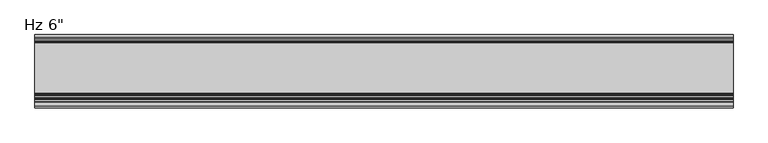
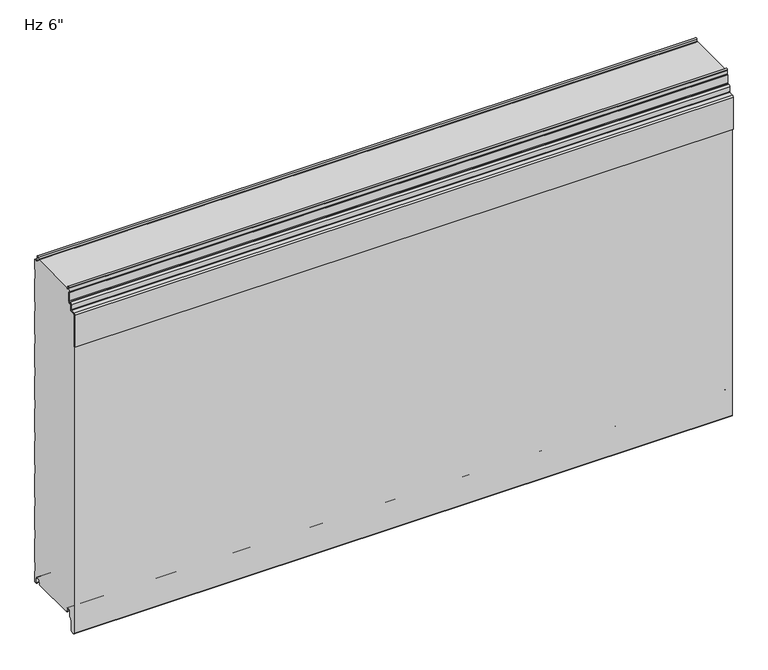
"""IFC4 building model written with IfcOpenShell, lengths in millimetres: plate geometry."""

from ifc_helpers import new_model, si_unit, frame, origin, place, context, project, spatial, polyline, circle_curve, source, transform, mapped, element, save
from ifc_brep_helpers import plane_surface, cylinder_surface, revolved_surface, advanced_brep


def plate_fe53e348(model_context):
    return source(origin(), model_context, "Body", "AdvancedBrep", [
        advanced_brep(
        [(730.0, -131.3008679, 735.9534183), (730.0, -131.3008679, 754.6986183), (730.0, -132.8248679, 754.6986183), (730.0, -132.8248679, 735.9534183), (730.0, -134.3488679, 734.4294183), (730.0, -137.4476679, 734.4294183), (730.0, -140.9020679, 730.9750183), (730.0, -140.9020679, 719.762461), (730.0, -141.5976552, 719.0033606), (730.0, -151.1416507, 717.808533), (730.0, -153.924, 714.7721316), (730.0, -153.9360323, 639.2048183), (730.0, -152.4, 639.2048183), (730.0, -152.4, 714.7721316), (730.0, -151.0088254, 716.2903323), (730.0, -141.4648299, 717.4851599), (730.0, -139.3780679, 719.762461), (730.0, -139.3780679, 730.9750183), (730.0, -137.4476679, 732.9054183), (730.0, -134.3488679, 732.9054183), (-730.0, -131.3008679, 735.9534183), (-730.0, -134.3488679, 732.9054183), (-730.0, -137.4476679, 732.9054183), (-730.0, -139.3780679, 730.9750183), (-730.0, -139.3780679, 719.762461), (-730.0, -141.4648299, 717.4851599), (-730.0, -151.0088254, 716.2903323), (-730.0, -152.4, 714.7721316), (-730.0, -152.4, 639.2048183), (-730.0, -153.9360323, 639.2048183), (-730.0, -153.9360323, 714.7721316), (-730.0, -151.1416507, 717.808533), (-730.0, -141.5976552, 719.0033606), (-730.0, -140.9020679, 719.762461), (-730.0, -140.9020679, 730.9750183), (-730.0, -137.4476679, 734.4294183), (-730.0, -134.3488679, 734.4294183), (-730.0, -132.8248679, 735.9534183), (-730.0, -132.8248679, 754.6986183), (-730.0, -131.3008679, 754.6986183)],
        [
            (0, 1),
            (1, 2),
            (2, 3),
            (3, 4, circle_curve(frame((730.0, -134.3488679, 735.9534183), z_axis=(-1.0, 0.0, 0.0), x_axis=(0.0, 1.0, 0.0)), 1.524)),
            (4, 5),
            (5, 6, circle_curve(frame((730.0, -137.4476679, 730.9750183), z_axis=(1.0, 0.0, 0.0), x_axis=(0.0, 1.0, 0.0)), 3.4544)),
            (6, 7),
            (7, 8, circle_curve(frame((730.0, -141.6640679, 719.762461), z_axis=(-1.0, 0.0, 0.0), x_axis=(0.0, 1.0, 0.0)), 0.762)),
            (8, 9),
            (9, 10, circle_curve(frame((730.0, -150.876, 714.7721316), z_axis=(1.0, 0.0, 0.0), x_axis=(0.0, 1.0, 0.0)), 3.048)),
            (10, 11),
            (11, 12),
            (12, 13),
            (13, 14, circle_curve(frame((730.0, -150.876, 714.7721316), z_axis=(-1.0, 0.0, 0.0), x_axis=(0.0, 1.0, 0.0)), 1.524)),
            (14, 15),
            (15, 16, circle_curve(frame((730.0, -141.6640679, 719.762461), z_axis=(1.0, 0.0, 0.0), x_axis=(0.0, 1.0, 0.0)), 2.286)),
            (16, 17),
            (17, 18, circle_curve(frame((730.0, -137.4476679, 730.9750183), z_axis=(-1.0, 0.0, 0.0), x_axis=(0.0, 1.0, 0.0)), 1.9304)),
            (18, 19),
            (19, 0, circle_curve(frame((730.0, -134.3488679, 735.9534183), z_axis=(1.0, 0.0, 0.0), x_axis=(0.0, 1.0, 0.0)), 3.048)),
            (20, 21, circle_curve(frame((-730.0, -134.3488679, 735.9534183), z_axis=(-1.0, 0.0, 0.0), x_axis=(0.0, 1.0, 0.0)), 3.048)),
            (21, 22),
            (22, 23, circle_curve(frame((-730.0, -137.4476679, 730.9750183), z_axis=(1.0, 0.0, 0.0), x_axis=(0.0, 1.0, 0.0)), 1.9304)),
            (23, 24),
            (24, 25, circle_curve(frame((-730.0, -141.6640679, 719.762461), z_axis=(-1.0, 0.0, 0.0), x_axis=(0.0, 1.0, 0.0)), 2.286)),
            (25, 26),
            (26, 27, circle_curve(frame((-730.0, -150.876, 714.7721316), z_axis=(1.0, 0.0, 0.0), x_axis=(0.0, 1.0, 0.0)), 1.524)),
            (27, 28),
            (28, 29),
            (29, 30),
            (30, 31, circle_curve(frame((-730.0, -150.876, 714.7721316), z_axis=(-1.0, 0.0, 0.0), x_axis=(0.0, 1.0, 0.0)), 3.048)),
            (31, 32),
            (32, 33, circle_curve(frame((-730.0, -141.6640679, 719.762461), z_axis=(1.0, 0.0, 0.0), x_axis=(0.0, 1.0, 0.0)), 0.762)),
            (33, 34),
            (34, 35, circle_curve(frame((-730.0, -137.4476679, 730.9750183), z_axis=(-1.0, 0.0, 0.0), x_axis=(0.0, 1.0, 0.0)), 3.4544)),
            (35, 36),
            (36, 37, circle_curve(frame((-730.0, -134.3488679, 735.9534183), z_axis=(1.0, 0.0, 0.0), x_axis=(0.0, 1.0, 0.0)), 1.524)),
            (37, 38),
            (38, 39),
            (39, 20),
            (2, 38),
            (37, 3),
            (15, 25),
            (24, 16),
            (7, 33),
            (32, 8),
            (5, 35),
            (34, 6),
            (1, 39),
            (36, 4),
            (9, 31),
            (30, 10),
            (13, 27),
            (26, 14),
            (0, 20),
            (12, 28),
            (29, 11),
            (23, 17),
            (18, 22),
            (21, 19),
        ],
        [
            plane_surface(frame((730.0, -152.4, 754.6986183), z_axis=(1.0, 0.0, 0.0), x_axis=(0.0, 0.0, -1.0))),
            plane_surface(frame((-730.0, -152.4, 754.6986183), z_axis=(-1.0, 0.0, 0.0), x_axis=(0.0, 0.0, -1.0))),
            plane_surface(frame((730.0, -132.8248679, 735.9534183), z_axis=(0.0, -1.0, 0.0), x_axis=(-1.0, 0.0, 0.0))),
            cylinder_surface(frame((730.0, -141.6640679, 719.762461), z_axis=(1.0, 0.0, 0.0), x_axis=(0.0, 1.0, 0.0)), 2.286),
            revolved_surface(polyline([(-730.0, -140.9020679, 719.762461), (730.0, -140.9020679, 719.762461)]), (730.0, -141.6640679, 719.762461), (-1.0, 0.0, 0.0)),
            cylinder_surface(frame((730.0, -137.4476679, 730.9750183), z_axis=(1.0, 0.0, 0.0), x_axis=(0.0, 1.0, 0.0)), 3.4544),
            plane_surface(frame((730.0, -132.8248679, 754.6986183), z_axis=(0.0, 0.0, 1.0), x_axis=(-1.0, 0.0, 0.0))),
            revolved_surface(polyline([(-730.0, -132.8248679, 735.9534183), (730.0, -132.8248679, 735.9534183)]), (730.0, -134.3488679, 735.9534183), (-1.0, 0.0, 0.0)),
            cylinder_surface(frame((730.0, -150.876, 714.7721316), z_axis=(1.0, 0.0, 0.0), x_axis=(0.0, 1.0, 0.0)), 3.048),
            revolved_surface(polyline([(-730.0, -149.352, 714.7721316), (730.0, -149.352, 714.7721316)]), (730.0, -150.876, 714.7721316), (-1.0, 0.0, 0.0)),
            plane_surface(frame((730.0, -131.3008679, 754.6986183), z_axis=(0.0, 1.0, 0.0), x_axis=(-1.0, 0.0, 0.0))),
            plane_surface(frame((730.0, -141.4648299, 717.4851599), z_axis=(0.0, 0.12422187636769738, -0.9922544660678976), x_axis=(-1.0, 0.0, 0.0))),
            plane_surface(frame((730.0, -152.4, 714.7721316), z_axis=(0.0, 1.0, 0.0), x_axis=(-1.0, 0.0, 0.0))),
            plane_surface(frame((730.0, -151.1416507, 717.808533), z_axis=(0.0, -0.12422187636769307, 0.9922544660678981), x_axis=(-1.0, 0.0, 0.0))),
            plane_surface(frame((730.0, -137.4476679, 734.4294183), z_axis=(0.0, 0.0, 1.0), x_axis=(-1.0, 0.0, 0.0))),
            plane_surface(frame((730.0, -153.9360323, 639.2048183), z_axis=(0.0, -1.0, 0.0), x_axis=(-1.0, 0.0, 0.0))),
            plane_surface(frame((730.0, -152.4, 639.2048183), z_axis=(0.0, 0.0, -1.0), x_axis=(-1.0, 0.0, 0.0))),
            plane_surface(frame((730.0, -139.3780679, 730.9750183), z_axis=(0.0, 1.0, 0.0), x_axis=(-1.0, 0.0, 0.0))),
            plane_surface(frame((730.0, -134.3488679, 732.9054183), z_axis=(0.0, 0.0, -1.0), x_axis=(-1.0, 0.0, 0.0))),
            plane_surface(frame((730.0, -140.9020679, 719.762461), z_axis=(0.0, -1.0, 0.0), x_axis=(-1.0, 0.0, 0.0))),
            revolved_surface(polyline([(-730.0, -135.5172679, 730.9750183), (730.0, -135.5172679, 730.9750183)]), (730.0, -137.4476679, 730.9750183), (-1.0, 0.0, 0.0)),
            cylinder_surface(frame((730.0, -134.3488679, 735.9534183), z_axis=(1.0, 0.0, 0.0), x_axis=(0.0, 1.0, 0.0)), 3.048),
        ],
        [
            (0, [[1, 2, 3, 4, 5, 6, 7, 8, 9, 10, 11, 12, 13, 14, 15, 16, 17, 18, 19, 20]]),
            (1, [[21, 22, 23, 24, 25, 26, 27, 28, 29, 30, 31, 32, 33, 34, 35, 36, 37, 38, 39, 40]]),
            (2, [[41, -38, 42, -3]]),
            (3, [[43, -25, 44, -16]]),
            (4, [[45, -33, 46, -8]]),
            (5, [[47, -35, 48, -6]]),
            (6, [[49, -39, -41, -2]]),
            (7, [[-42, -37, 50, -4]]),
            (8, [[51, -31, 52, -10]]),
            (9, [[53, -27, 54, -14]]),
            (10, [[55, -40, -49, -1]]),
            (11, [[-54, -26, -43, -15]]),
            (12, [[56, -28, -53, -13]]),
            (13, [[-46, -32, -51, -9]]),
            (14, [[-50, -36, -47, -5]]),
            (15, [[-52, -30, 57, -11]]),
            (16, [[-57, -29, -56, -12]]),
            (17, [[-44, -24, 58, -17]]),
            (18, [[59, -22, 60, -19]]),
            (19, [[-48, -34, -45, -7]]),
            (20, [[-58, -23, -59, -18]]),
            (21, [[-60, -21, -55, -20]]),
        ],
    ),
        advanced_brep(
        [(-730.0, -124.070875, 1.0316999), (-730.0, -122.9014003, 2.2328239), (-730.0, -122.9014003, 5.9912173), (-730.0, -124.2998791, 5.9912173), (-730.0, -124.2998791, 8.6903283), (-730.0, -127.6498744, 12.0403236), (-730.0, -132.0498656, 12.0403236), (-730.0, -135.3998609, 8.6903283), (-730.0, -135.3998609, -3.1205608), (-730.0, -135.8977778, -4.3226385), (-730.0, -141.3998489, -9.8247096), (-730.0, -141.3998489, -31.9198392), (-730.0, -143.6184509, -34.5765709), (-730.0, -148.6002718, -35.0125699), (-730.0, -151.3945967, -32.4521176), (-730.0, -151.4, 713.515622), (-730.0, -149.6149259, 715.4669057), (-730.0, -141.1539491, 716.221161), (-730.0, -138.3906462, 719.3653654), (-730.0, -138.3906462, 729.4583308), (-730.0, -137.4392375, 730.4097394), (-730.0, -134.2955822, 730.4097394), (-730.0, -130.2961292, 734.4091924), (-730.0, -130.2961292, 755.5895515), (-730.0, -132.276977, 756.7334028), (-730.0, -131.9217167, 765.706811), (-730.0, -127.7211391, 765.7037148), (-730.0, -127.4767242, 761.6977997), (-730.0, -125.6819116, 759.9686884), (-730.0, -122.897365, 759.9686884), (-730.0, -122.897365, 760.9686884), (-730.0, -124.484865, 760.9686884), (-730.0, -123.4535534, 762.0), (-730.0, -18.6184525, 762.0), (-730.0, -17.5871409, 760.9686884), (-730.0, -19.0015288, 760.9686884), (-730.0, -19.0015288, 759.9686884), (-730.0, -16.6743462, 759.9686884), (-730.0, -14.9256429, 761.6513685), (-730.0, -14.7059822, 765.7921924), (-730.0, -10.4046442, 765.7931719), (-730.0, -9.9974365, 757.3016499), (-730.0, -6.0026007, 753.4787013), (-730.0, -1.0, 753.4787013), (-730.0, -1.0, 728.9790963), (-730.0, -2.2002307, 727.5934634), (-730.0, -2.2002307, 708.2182971), (-730.0, -1.0, 706.8326641), (-730.0, -1.0, 652.7792487), (-730.0, -2.2002307, 651.3936158), (-730.0, -2.2002307, 632.0184495), (-730.0, -1.0, 630.6328165), (-730.0, -1.0, 576.5794011), (-730.0, -2.2002307, 575.1937682), (-730.0, -2.2002307, 555.8186019), (-730.0, -1.0, 554.4329689), (-730.0, -1.0, 500.3795535), (-730.0, -2.2002307, 498.9939206), (-730.0, -2.2002307, 479.6187543), (-730.0, -1.0, 478.2331213), (-730.0, -1.0, 424.1797059), (-730.0, -2.2002307, 422.794073), (-730.0, -2.2002307, 403.4189067), (-730.0, -1.0, 402.0332737), (-730.0, -1.0, 347.9798583), (-730.0, -2.2002307, 346.5942254), (-730.0, -2.2002307, 327.2190591), (-730.0, -1.0, 325.8334261), (-730.0, -1.0, 271.7800107), (-730.0, -2.2002307, 270.3943778), (-730.0, -2.2002307, 251.0192115), (-730.0, -1.0, 249.6335785), (-730.0, -1.0, 195.5801631), (-730.0, -2.2002307, 194.1945302), (-730.0, -2.2002307, 174.8193639), (-730.0, -1.0, 173.4337309), (-730.0, -1.0, 119.3803155), (-730.0, -2.2002307, 117.9946826), (-730.0, -2.2002307, 98.6195163), (-730.0, -1.0, 97.2338833), (-730.0, -1.0, 43.1804679), (-730.0, -2.2002307, 41.794835), (-730.0, -2.2002307, 22.4196687), (-730.0, -0.9999916, 21.034026), (-730.0, -0.9999916, -3.4662506), (-730.0, -5.2315389, -3.4662506), (-730.0, -7.0015331, -1.6962564), (-730.0, -7.0015331, 8.7237222), (-730.0, -10.301529, 12.023718), (-730.0, -14.7015202, 12.023718), (-730.0, -18.0015159, 8.7237223), (-730.0, -18.0015159, 6.0315125), (-730.0, -19.0015105, 6.0315125), (-730.0, -19.0015105, 2.0313089), (-730.0, -18.0015192, 1.0313117), (-730.0, -19.0328308, 0.0), (-730.0, -123.0391751, 0.0), (730.0, -124.070875, 1.0316999), (730.0, -123.0391751, 0.0), (730.0, -19.0328308, 0.0), (730.0, -18.0015192, 1.0313117), (730.0, -19.0015105, 2.0313089), (730.0, -19.0015105, 6.0315125), (730.0, -18.0015159, 6.0315125), (730.0, -18.0015159, 8.7237223), (730.0, -14.7015202, 12.023718), (730.0, -10.301529, 12.023718), (730.0, -7.0015331, 8.7237222), (730.0, -7.0015331, -1.6962564), (730.0, -5.2315389, -3.4662506), (730.0, -0.9999916, -3.4662506), (730.0, -0.9999916, 21.034026), (730.0, -2.2002307, 22.4196687), (730.0, -2.2002307, 41.794835), (730.0, -1.0, 43.1804679), (730.0, -1.0, 97.2338833), (730.0, -2.2002307, 98.6195163), (730.0, -2.2002307, 117.9946826), (730.0, -1.0, 119.3803155), (730.0, -1.0, 173.4337309), (730.0, -2.2002307, 174.8193639), (730.0, -2.2002307, 194.1945302), (730.0, -1.0, 195.5801631), (730.0, -1.0, 249.6335785), (730.0, -2.2002307, 251.0192115), (730.0, -2.2002307, 270.3943778), (730.0, -1.0, 271.7800107), (730.0, -1.0, 325.8334261), (730.0, -2.2002307, 327.2190591), (730.0, -2.2002307, 346.5942254), (730.0, -1.0, 347.9798583), (730.0, -1.0, 402.0332737), (730.0, -2.2002307, 403.4189067), (730.0, -2.2002307, 422.794073), (730.0, -1.0, 424.1797059), (730.0, -1.0, 478.2331213), (730.0, -2.2002307, 479.6187543), (730.0, -2.2002307, 498.9939206), (730.0, -1.0, 500.3795535), (730.0, -1.0, 554.4329689), (730.0, -2.2002307, 555.8186019), (730.0, -2.2002307, 575.1937682), (730.0, -1.0, 576.5794011), (730.0, -1.0, 630.6328165), (730.0, -2.2002307, 632.0184495), (730.0, -2.2002307, 651.3936158), (730.0, -1.0, 652.7792487), (730.0, -1.0, 706.8326641), (730.0, -2.2002307, 708.2182971), (730.0, -2.2002307, 727.5934634), (730.0, -1.0, 728.9790963), (730.0, -1.0, 753.4787013), (730.0, -6.0026007, 753.4787013), (730.0, -9.9974365, 757.3016499), (730.0, -10.4046442, 765.7931719), (730.0, -14.7059822, 765.7921924), (730.0, -14.9256429, 761.6513685), (730.0, -16.6743462, 759.9686884), (730.0, -19.0015288, 759.9686884), (730.0, -19.0015288, 760.9686884), (730.0, -17.5871409, 760.9686884), (730.0, -18.6184525, 762.0), (730.0, -123.4535534, 762.0), (730.0, -124.484865, 760.9686884), (730.0, -122.897365, 760.9686884), (730.0, -122.897365, 759.9686884), (730.0, -125.6819116, 759.9686884), (730.0, -127.4767242, 761.6977997), (730.0, -127.7211391, 765.7037148), (730.0, -131.9217167, 765.706811), (730.0, -132.276977, 756.7334028), (730.0, -130.2961292, 755.5895515), (730.0, -130.2961292, 734.4091924), (730.0, -134.2955822, 730.4097394), (730.0, -137.4392375, 730.4097394), (730.0, -138.3906462, 729.4583308), (730.0, -138.3906462, 719.3653654), (730.0, -141.1539491, 716.221161), (730.0, -149.6149259, 715.4669057), (730.0, -151.4, 713.515622), (730.0, -151.4, -32.4521176), (730.0, -148.6002718, -35.0125699), (730.0, -143.6184509, -34.5765709), (730.0, -141.3998489, -31.9198392), (730.0, -141.3998489, -9.8247096), (730.0, -135.8977778, -4.3226385), (730.0, -135.3998609, -3.1205608), (730.0, -135.3998609, 8.6903283), (730.0, -132.0498656, 12.0403236), (730.0, -127.6498744, 12.0403236), (730.0, -124.2998791, 8.6903283), (730.0, -124.2998791, 5.9912173), (730.0, -122.9014003, 5.9912173), (730.0, -122.9014003, 2.2328239)],
        [
            (0, 1, circle_curve(frame((-730.0, -124.1013969, 2.2313092), z_axis=(1.0, 0.0, 0.0), x_axis=(0.0, 0.0, -1.0)), 1.1999976)),
            (1, 2),
            (2, 3),
            (3, 4),
            (4, 5, circle_curve(frame((-730.0, -127.6498744, 8.6903283), z_axis=(1.0, 0.0, 0.0), x_axis=(0.0, 0.0, -1.0)), 3.3499953)),
            (5, 6),
            (6, 7, circle_curve(frame((-730.0, -132.0498656, 8.6903283), z_axis=(1.0, 0.0, 0.0), x_axis=(0.0, 0.0, -1.0)), 3.3499953)),
            (7, 8),
            (8, 9, circle_curve(frame((-730.0, -137.0998555, -3.1205608), z_axis=(-1.0, 0.0, 0.0), x_axis=(0.0, 0.0, -1.0)), 1.6999946)),
            (9, 10),
            (10, 11),
            (11, 12, circle_curve(frame((-730.0, -144.0998415, -31.9198392), z_axis=(-1.0, 0.0, 0.0), x_axis=(0.0, 0.0, -1.0)), 2.6999926)),
            (12, 13),
            (13, 14, circle_curve(frame((-730.0, -148.8243575, -32.4521176), z_axis=(-1.0, 0.0, 0.0), x_axis=(0.0, 0.0, -1.0)), 2.5702393)),
            (14, 15),
            (15, 16, circle_curve(frame((-730.0, -149.4409784, 713.515622), z_axis=(-1.0, 0.0, 0.0), x_axis=(0.0, 0.0, -1.0)), 1.9590216)),
            (16, 17),
            (17, 18, circle_curve(frame((-730.0, -141.4180321, 719.2396267), z_axis=(1.0, 0.0, 0.0), x_axis=(0.0, 0.0, -1.0)), 3.0299959)),
            (18, 19),
            (19, 20, circle_curve(frame((-730.0, -137.4392375, 729.4583308), z_axis=(-1.0, 0.0, 0.0), x_axis=(0.0, 0.0, -1.0)), 0.9514087)),
            (20, 21),
            (21, 22, circle_curve(frame((-730.0, -134.2955822, 734.4091924), z_axis=(1.0, 0.0, 0.0), x_axis=(0.0, 0.0, -1.0)), 3.9994529)),
            (22, 23),
            (23, 24),
            (24, 25),
            (25, 26, circle_curve(frame((-730.0, -129.821488, 765.6236622), z_axis=(-1.0, 0.0, 0.0), x_axis=(0.0, 0.0, -1.0)), 2.1018739)),
            (26, 27),
            (27, 28, circle_curve(frame((-730.0, -125.6383506, 761.8099653), z_axis=(1.0, 0.0, 0.0), x_axis=(0.0, 0.0, -1.0)), 1.8417922)),
            (28, 29),
            (29, 30),
            (30, 31),
            (31, 32),
            (32, 33),
            (33, 34),
            (34, 35),
            (35, 36),
            (36, 37),
            (37, 38, circle_curve(frame((-730.0, -16.6743462, 761.7186869), z_axis=(1.0, 0.0, 0.0), x_axis=(0.0, 0.0, 1.0)), 1.7499985)),
            (38, 39),
            (39, 40, circle_curve(frame((-730.0, -12.5552871, 765.6781032), z_axis=(-1.0, 0.0, 0.0), x_axis=(0.0, 0.0, 1.0)), 2.153719)),
            (40, 41),
            (41, 42, circle_curve(frame((-730.0, -5.9867338, 757.4939817), z_axis=(1.0, 0.0, 0.0), x_axis=(0.0, 0.0, 1.0)), 4.0153117)),
            (42, 43),
            (43, 44),
            (44, 45),
            (45, 46),
            (46, 47),
            (47, 48),
            (48, 49),
            (49, 50),
            (50, 51),
            (51, 52),
            (52, 53),
            (53, 54),
            (54, 55),
            (55, 56),
            (56, 57),
            (57, 58),
            (58, 59),
            (59, 60),
            (60, 61),
            (61, 62),
            (62, 63),
            (63, 64),
            (64, 65),
            (65, 66),
            (66, 67),
            (67, 68),
            (68, 69),
            (69, 70),
            (70, 71),
            (71, 72),
            (72, 73),
            (73, 74),
            (74, 75),
            (75, 76),
            (76, 77),
            (77, 78),
            (78, 79),
            (79, 80),
            (80, 81),
            (81, 82),
            (82, 83),
            (83, 84),
            (84, 85),
            (85, 86, circle_curve(frame((-730.0, -5.2315389, -1.6962564), z_axis=(-1.0, 0.0, 0.0), x_axis=(0.0, 0.0, 1.0)), 1.7699942)),
            (86, 87),
            (87, 88, circle_curve(frame((-730.0, -10.301529, 8.7237222), z_axis=(1.0, 0.0, 0.0), x_axis=(0.0, 0.0, 1.0)), 3.2999959)),
            (88, 89),
            (89, 90, circle_curve(frame((-730.0, -14.7015202, 8.7237223), z_axis=(1.0, 0.0, 0.0), x_axis=(0.0, 0.0, 1.0)), 3.2999957)),
            (90, 91),
            (91, 92),
            (92, 93),
            (93, 94, circle_curve(frame((-730.0, -18.0015133, 2.0313089), z_axis=(1.0, 0.0, 0.0), x_axis=(0.0, 0.0, 1.0)), 0.9999972)),
            (94, 95),
            (95, 96),
            (96, 0),
            (97, 98),
            (98, 99),
            (99, 100),
            (100, 101, circle_curve(frame((730.0, -18.0015133, 2.0313089), z_axis=(-1.0, 0.0, 0.0), x_axis=(0.0, 0.0, 1.0)), 0.9999972)),
            (101, 102),
            (102, 103),
            (103, 104),
            (104, 105, circle_curve(frame((730.0, -14.7015202, 8.7237223), z_axis=(-1.0, 0.0, 0.0), x_axis=(0.0, 0.0, 1.0)), 3.2999957)),
            (105, 106),
            (106, 107, circle_curve(frame((730.0, -10.301529, 8.7237222), z_axis=(-1.0, 0.0, 0.0), x_axis=(0.0, 0.0, 1.0)), 3.2999959)),
            (107, 108),
            (108, 109, circle_curve(frame((730.0, -5.2315389, -1.6962564), z_axis=(1.0, 0.0, 0.0), x_axis=(0.0, 0.0, 1.0)), 1.7699942)),
            (109, 110),
            (110, 111),
            (111, 112),
            (112, 113),
            (113, 114),
            (114, 115),
            (115, 116),
            (116, 117),
            (117, 118),
            (118, 119),
            (119, 120),
            (120, 121),
            (121, 122),
            (122, 123),
            (123, 124),
            (124, 125),
            (125, 126),
            (126, 127),
            (127, 128),
            (128, 129),
            (129, 130),
            (130, 131),
            (131, 132),
            (132, 133),
            (133, 134),
            (134, 135),
            (135, 136),
            (136, 137),
            (137, 138),
            (138, 139),
            (139, 140),
            (140, 141),
            (141, 142),
            (142, 143),
            (143, 144),
            (144, 145),
            (145, 146),
            (146, 147),
            (147, 148),
            (148, 149),
            (149, 150),
            (150, 151),
            (151, 152),
            (152, 153, circle_curve(frame((730.0, -5.9867338, 757.4939817), z_axis=(-1.0, 0.0, 0.0), x_axis=(0.0, 0.0, 1.0)), 4.0153117)),
            (153, 154),
            (154, 155, circle_curve(frame((730.0, -12.5552871, 765.6781032), z_axis=(1.0, 0.0, 0.0), x_axis=(0.0, 0.0, 1.0)), 2.153719)),
            (155, 156),
            (156, 157, circle_curve(frame((730.0, -16.6743462, 761.7186869), z_axis=(-1.0, 0.0, 0.0), x_axis=(0.0, 0.0, 1.0)), 1.7499985)),
            (157, 158),
            (158, 159),
            (159, 160),
            (160, 161),
            (161, 162),
            (162, 163),
            (163, 164),
            (164, 165),
            (165, 166),
            (166, 167, circle_curve(frame((730.0, -125.6383506, 761.8099653), z_axis=(-1.0, 0.0, 0.0), x_axis=(0.0, 0.0, -1.0)), 1.8417922)),
            (167, 168),
            (168, 169, circle_curve(frame((730.0, -129.821488, 765.6236622), z_axis=(1.0, 0.0, 0.0), x_axis=(0.0, 0.0, -1.0)), 2.1018739)),
            (169, 170),
            (170, 171),
            (171, 172),
            (172, 173, circle_curve(frame((730.0, -134.2955822, 734.4091924), z_axis=(-1.0, 0.0, 0.0), x_axis=(0.0, 0.0, -1.0)), 3.9994529)),
            (173, 174),
            (174, 175, circle_curve(frame((730.0, -137.4392375, 729.4583308), z_axis=(1.0, 0.0, 0.0), x_axis=(0.0, 0.0, -1.0)), 0.9514087)),
            (175, 176),
            (176, 177, circle_curve(frame((730.0, -141.4180321, 719.2396267), z_axis=(-1.0, 0.0, 0.0), x_axis=(0.0, 0.0, -1.0)), 3.0299959)),
            (177, 178),
            (178, 179, circle_curve(frame((730.0, -149.4409784, 713.515622), z_axis=(1.0, 0.0, 0.0), x_axis=(0.0, 0.0, -1.0)), 1.9590216)),
            (179, 180),
            (180, 181, circle_curve(frame((730.0, -148.8243575, -32.4521176), z_axis=(1.0, 0.0, 0.0), x_axis=(0.0, 0.0, -1.0)), 2.5702393)),
            (181, 182),
            (182, 183, circle_curve(frame((730.0, -144.0998415, -31.9198392), z_axis=(1.0, 0.0, 0.0), x_axis=(0.0, 0.0, -1.0)), 2.6999926)),
            (183, 184),
            (184, 185),
            (185, 186, circle_curve(frame((730.0, -137.0998555, -3.1205608), z_axis=(1.0, 0.0, 0.0), x_axis=(0.0, 0.0, -1.0)), 1.6999946)),
            (186, 187),
            (187, 188, circle_curve(frame((730.0, -132.0498656, 8.6903283), z_axis=(-1.0, 0.0, 0.0), x_axis=(0.0, 0.0, -1.0)), 3.3499953)),
            (188, 189),
            (189, 190, circle_curve(frame((730.0, -127.6498744, 8.6903283), z_axis=(-1.0, 0.0, 0.0), x_axis=(0.0, 0.0, -1.0)), 3.3499953)),
            (190, 191),
            (191, 192),
            (192, 193),
            (193, 97, circle_curve(frame((730.0, -124.1013969, 2.2313092), z_axis=(-1.0, 0.0, 0.0), x_axis=(0.0, 0.0, -1.0)), 1.1999976)),
            (96, 98),
            (97, 0),
            (95, 99),
            (32, 162),
            (161, 33),
            (31, 163),
            (30, 164),
            (29, 165),
            (28, 166),
            (27, 167),
            (26, 168),
            (25, 169),
            (24, 170),
            (23, 171),
            (22, 172),
            (21, 173),
            (20, 174),
            (19, 175),
            (18, 176),
            (17, 177),
            (16, 178),
            (15, 179),
            (14, 180),
            (13, 181),
            (12, 182),
            (11, 183),
            (10, 184),
            (9, 185),
            (8, 186),
            (7, 187),
            (6, 188),
            (5, 189),
            (4, 190),
            (3, 191),
            (2, 192),
            (1, 193),
            (94, 100),
            (93, 101),
            (92, 102),
            (91, 103),
            (90, 104),
            (89, 105),
            (88, 106),
            (87, 107),
            (86, 108),
            (85, 109),
            (84, 110),
            (83, 111),
            (82, 112),
            (81, 113),
            (80, 114),
            (79, 115),
            (78, 116),
            (77, 117),
            (76, 118),
            (75, 119),
            (74, 120),
            (73, 121),
            (72, 122),
            (71, 123),
            (70, 124),
            (69, 125),
            (68, 126),
            (67, 127),
            (66, 128),
            (65, 129),
            (64, 130),
            (63, 131),
            (62, 132),
            (61, 133),
            (60, 134),
            (59, 135),
            (58, 136),
            (57, 137),
            (56, 138),
            (55, 139),
            (54, 140),
            (53, 141),
            (52, 142),
            (51, 143),
            (50, 144),
            (49, 145),
            (48, 146),
            (47, 147),
            (46, 148),
            (45, 149),
            (44, 150),
            (43, 151),
            (42, 152),
            (41, 153),
            (40, 154),
            (39, 155),
            (38, 156),
            (37, 157),
            (36, 158),
            (35, 159),
            (34, 160),
        ],
        [
            plane_surface(frame((-730.0, -151.4, 381.0), z_axis=(-1.0, 0.0, 0.0), x_axis=(0.0, -1.0, 0.0))),
            plane_surface(frame((730.0, -151.4, 381.0), z_axis=(1.0, 0.0, 0.0), x_axis=(0.0, -1.0, 0.0))),
            plane_surface(frame((-730.0, -124.070875, 1.0316999), z_axis=(0.0, -0.7071067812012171, -0.707106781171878), x_axis=(1.0, 0.0, 0.0))),
            plane_surface(frame((-730.0, -123.0391751, 0.0), z_axis=(0.0, 0.0, -1.0), x_axis=(1.0, 0.0, 0.0))),
            plane_surface(frame((-730.0, -122.0391751, 762.0), z_axis=(0.0, 0.0, 1.0), x_axis=(1.0, 0.0, 0.0))),
            plane_surface(frame((-730.0, -123.4535534, 762.0), z_axis=(0.0, -0.7071067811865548, 0.7071067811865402), x_axis=(1.0, 0.0, 0.0))),
            plane_surface(frame((-730.0, -124.484865, 760.9686884), z_axis=(0.0, 0.0, -1.0), x_axis=(1.0, 0.0, 0.0))),
            plane_surface(frame((-730.0, -122.897365, 760.9686884), z_axis=(0.0, -1.0, 0.0), x_axis=(1.0, 0.0, 0.0))),
            plane_surface(frame((-730.0, -122.897365, 759.9686884), z_axis=(0.0, 0.0, 1.0), x_axis=(1.0, 0.0, 0.0))),
            revolved_surface(polyline([(730.0, -125.6383506, 759.9681731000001), (-730.0, -125.6383506, 759.9681731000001)]), (-730.0, -125.6383506, 761.8099653), (1.0, 0.0, 0.0)),
            plane_surface(frame((-730.0, -127.4767242, 761.6977997), z_axis=(0.0, 0.9981438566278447, 0.06090025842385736), x_axis=(1.0, 0.0, 0.0))),
            cylinder_surface(frame((-730.0, -129.821488, 765.6236622), z_axis=(-1.0, 0.0, 0.0), x_axis=(0.0, 0.0, -1.0)), 2.1018739),
            plane_surface(frame((-730.0, -131.9217167, 765.706811), z_axis=(0.0, -0.9992172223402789, 0.03955935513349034), x_axis=(1.0, 0.0, 0.0))),
            plane_surface(frame((-730.0, -132.276977, 756.7334028), z_axis=(0.0, -0.5000682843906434, -0.865985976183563), x_axis=(1.0, 0.0, 0.0))),
            plane_surface(frame((-730.0, -130.2961292, 755.5895515), z_axis=(0.0, -1.0, 0.0), x_axis=(1.0, 0.0, 0.0))),
            revolved_surface(polyline([(730.0, -134.2955822, 730.4097395), (-730.0, -134.2955822, 730.4097395)]), (-730.0, -134.2955822, 734.4091924), (1.0, 0.0, 0.0)),
            plane_surface(frame((-730.0, -134.2955822, 730.4097394), z_axis=(0.0, 0.0, 1.0), x_axis=(1.0, 0.0, 0.0))),
            cylinder_surface(frame((-730.0, -137.4392375, 729.4583308), z_axis=(-1.0, 0.0, 0.0), x_axis=(0.0, 0.0, -1.0)), 0.9514087),
            plane_surface(frame((-730.0, -138.3906462, 729.4583308), z_axis=(0.0, -1.0, 0.0), x_axis=(1.0, 0.0, 0.0))),
            revolved_surface(polyline([(730.0, -141.4180321, 716.2096308), (-730.0, -141.4180321, 716.2096308)]), (-730.0, -141.4180321, 719.2396267), (1.0, 0.0, 0.0)),
            plane_surface(frame((-730.0, -141.1539491, 716.221161), z_axis=(0.0, -0.08879306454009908, 0.9960500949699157), x_axis=(1.0, 0.0, 0.0))),
            cylinder_surface(frame((-730.0, -149.4409784, 713.515622), z_axis=(-1.0, 0.0, 0.0), x_axis=(0.0, 0.0, -1.0)), 1.9590216),
            plane_surface(frame((-730.0, -151.4, 713.515622), z_axis=(0.0, -1.0, 0.0), x_axis=(1.0, 0.0, 0.0))),
            cylinder_surface(frame((-730.0, -148.8243575, -32.4521176), z_axis=(-1.0, 0.0, 0.0), x_axis=(0.0, 0.0, -1.0)), 2.5702393),
            plane_surface(frame((-730.0, -148.6002718, -35.0125699), z_axis=(0.0, 0.08718474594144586, -0.9961921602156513), x_axis=(1.0, 0.0, 0.0))),
            cylinder_surface(frame((-730.0, -144.0998415, -31.9198392), z_axis=(-1.0, 0.0, 0.0), x_axis=(0.0, 0.0, -1.0)), 2.6999926),
            plane_surface(frame((-730.0, -141.3998489, -31.9198392), z_axis=(0.0, 1.0, 0.0), x_axis=(1.0, 0.0, 0.0))),
            plane_surface(frame((-730.0, -141.3998489, -9.8247096), z_axis=(0.0, 0.7071067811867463, -0.7071067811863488), x_axis=(1.0, 0.0, 0.0))),
            cylinder_surface(frame((-730.0, -137.0998555, -3.1205608), z_axis=(-1.0, 0.0, 0.0), x_axis=(0.0, 0.0, -1.0)), 1.6999946),
            plane_surface(frame((-730.0, -135.3998609, -3.1205608), z_axis=(0.0, 1.0, 0.0), x_axis=(1.0, 0.0, 0.0))),
            revolved_surface(polyline([(730.0, -132.0498656, 5.340332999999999), (-730.0, -132.0498656, 5.340332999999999)]), (-730.0, -132.0498656, 8.6903283), (1.0, 0.0, 0.0)),
            plane_surface(frame((-730.0, -132.0498656, 12.0403236), z_axis=(0.0, 0.0, -1.0), x_axis=(1.0, 0.0, 0.0))),
            revolved_surface(polyline([(730.0, -127.6498744, 5.340332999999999), (-730.0, -127.6498744, 5.340332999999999)]), (-730.0, -127.6498744, 8.6903283), (1.0, 0.0, 0.0)),
            plane_surface(frame((-730.0, -124.2998791, 8.6903283), z_axis=(0.0, -1.0, 0.0), x_axis=(1.0, 0.0, 0.0))),
            plane_surface(frame((-730.0, -124.2998791, 5.9912173), z_axis=(0.0, 0.0, -1.0), x_axis=(1.0, 0.0, 0.0))),
            plane_surface(frame((-730.0, -122.9014003, 5.9912173), z_axis=(0.0, -1.0, 0.0), x_axis=(1.0, 0.0, 0.0))),
            revolved_surface(polyline([(730.0, -124.1013969, 1.0313116), (-730.0, -124.1013969, 1.0313116)]), (-730.0, -124.1013969, 2.2313092), (1.0, 0.0, 0.0)),
            plane_surface(frame((-730.0, -19.0328308, 0.0), z_axis=(0.0, 0.7071067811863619, -0.7071067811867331), x_axis=(1.0, 0.0, 0.0))),
            revolved_surface(polyline([(730.0, -18.0015133, 3.0313061), (-730.0, -18.0015133, 3.0313061)]), (-730.0, -18.0015133, 2.0313089), (1.0, 0.0, 0.0)),
            plane_surface(frame((-730.0, -19.0015105, 2.0313089), z_axis=(0.0, 1.0, 0.0), x_axis=(1.0, 0.0, 0.0))),
            plane_surface(frame((-730.0, -19.0015105, 6.0315125), z_axis=(0.0, 0.0, -1.0), x_axis=(1.0, 0.0, 0.0))),
            plane_surface(frame((-730.0, -18.0015159, 6.0315125), z_axis=(0.0, 1.0, 0.0), x_axis=(1.0, 0.0, 0.0))),
            revolved_surface(polyline([(730.0, -14.7015202, 12.023718), (-730.0, -14.7015202, 12.023718)]), (-730.0, -14.7015202, 8.7237223), (1.0, 0.0, 0.0)),
            plane_surface(frame((-730.0, -14.7015202, 12.023718), z_axis=(0.0, 0.0, -1.0), x_axis=(1.0, 0.0, 0.0))),
            revolved_surface(polyline([(730.0, -10.301529, 12.0237181), (-730.0, -10.301529, 12.0237181)]), (-730.0, -10.301529, 8.7237222), (1.0, 0.0, 0.0)),
            plane_surface(frame((-730.0, -7.0015331, 8.7237222), z_axis=(0.0, -1.0, 0.0), x_axis=(1.0, 0.0, 0.0))),
            cylinder_surface(frame((-730.0, -5.2315389, -1.6962564), z_axis=(-1.0, 0.0, 0.0), x_axis=(0.0, 0.0, 1.0)), 1.7699942),
            plane_surface(frame((-730.0, -5.2315389, -3.4662506), z_axis=(0.0, 0.0, -1.0), x_axis=(1.0, 0.0, 0.0))),
            plane_surface(frame((-730.0, -0.9999916, -3.4662506), z_axis=(0.0, 1.0, 0.0), x_axis=(1.0, 0.0, 0.0))),
            plane_surface(frame((-730.0, -0.9999916, 21.034026), z_axis=(0.0, 0.7558648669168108, 0.6547276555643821), x_axis=(1.0, 0.0, 0.0))),
            plane_surface(frame((-730.0, -2.2002307, 22.4196687), z_axis=(0.0, 1.0, 0.0), x_axis=(1.0, 0.0, 0.0))),
            plane_surface(frame((-730.0, -2.2002307, 41.794835), z_axis=(0.0, 0.7558648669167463, -0.6547276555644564), x_axis=(1.0, 0.0, 0.0))),
            plane_surface(frame((-730.0, -1.0, 43.1804679), z_axis=(0.0, 1.0, 0.0), x_axis=(1.0, 0.0, 0.0))),
            plane_surface(frame((-730.0, -1.0, 97.2338833), z_axis=(0.0, 0.7558648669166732, 0.6547276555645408), x_axis=(1.0, 0.0, 0.0))),
            plane_surface(frame((-730.0, -2.2002307, 98.6195163), z_axis=(0.0, 1.0, 0.0), x_axis=(1.0, 0.0, 0.0))),
            plane_surface(frame((-730.0, -2.2002307, 117.9946826), z_axis=(0.0, 0.7558648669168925, -0.6547276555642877), x_axis=(1.0, 0.0, 0.0))),
            plane_surface(frame((-730.0, -1.0, 119.3803155), z_axis=(0.0, 1.0, 0.0), x_axis=(1.0, 0.0, 0.0))),
            plane_surface(frame((-730.0, -1.0, 173.4337309), z_axis=(0.0, 0.7558648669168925, 0.6547276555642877), x_axis=(1.0, 0.0, 0.0))),
            plane_surface(frame((-730.0, -2.2002307, 174.8193639), z_axis=(0.0, 1.0, 0.0), x_axis=(1.0, 0.0, 0.0))),
            plane_surface(frame((-730.0, -2.2002307, 194.1945302), z_axis=(0.0, 0.7558648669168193, -0.6547276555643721), x_axis=(1.0, 0.0, 0.0))),
            plane_surface(frame((-730.0, -1.0, 195.5801631), z_axis=(0.0, 1.0, 0.0), x_axis=(1.0, 0.0, 0.0))),
            plane_surface(frame((-730.0, -1.0, 249.6335785), z_axis=(0.0, 0.7558648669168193, 0.6547276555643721), x_axis=(1.0, 0.0, 0.0))),
            plane_surface(frame((-730.0, -2.2002307, 251.0192115), z_axis=(0.0, 1.0, 0.0), x_axis=(1.0, 0.0, 0.0))),
            plane_surface(frame((-730.0, -2.2002307, 270.3943778), z_axis=(0.0, 0.7558648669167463, -0.6547276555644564), x_axis=(1.0, 0.0, 0.0))),
            plane_surface(frame((-730.0, -1.0, 271.7800107), z_axis=(0.0, 1.0, 0.0), x_axis=(1.0, 0.0, 0.0))),
            plane_surface(frame((-730.0, -1.0, 325.8334261), z_axis=(0.0, 0.7558648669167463, 0.6547276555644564), x_axis=(1.0, 0.0, 0.0))),
            plane_surface(frame((-730.0, -2.2002307, 327.2190591), z_axis=(0.0, 1.0, 0.0), x_axis=(1.0, 0.0, 0.0))),
            plane_surface(frame((-730.0, -2.2002307, 346.5942254), z_axis=(0.0, 0.7558648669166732, -0.6547276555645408), x_axis=(1.0, 0.0, 0.0))),
            plane_surface(frame((-730.0, -1.0, 347.9798583), z_axis=(0.0, 1.0, 0.0), x_axis=(1.0, 0.0, 0.0))),
            plane_surface(frame((-730.0, -1.0, 402.0332737), z_axis=(0.0, 0.7558648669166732, 0.6547276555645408), x_axis=(1.0, 0.0, 0.0))),
            plane_surface(frame((-730.0, -2.2002307, 403.4189067), z_axis=(0.0, 1.0, 0.0), x_axis=(1.0, 0.0, 0.0))),
            plane_surface(frame((-730.0, -2.2002307, 422.794073), z_axis=(0.0, 0.755864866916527, -0.6547276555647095), x_axis=(1.0, 0.0, 0.0))),
            plane_surface(frame((-730.0, -1.0, 424.1797059), z_axis=(0.0, 1.0, 0.0), x_axis=(1.0, 0.0, 0.0))),
            plane_surface(frame((-730.0, -1.0, 478.2331213), z_axis=(0.0, 0.755864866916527, 0.6547276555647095), x_axis=(1.0, 0.0, 0.0))),
            plane_surface(frame((-730.0, -2.2002307, 479.6187543), z_axis=(0.0, 1.0, 0.0), x_axis=(1.0, 0.0, 0.0))),
            plane_surface(frame((-730.0, -2.2002307, 498.9939206), z_axis=(0.0, 0.755864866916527, -0.6547276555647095), x_axis=(1.0, 0.0, 0.0))),
            plane_surface(frame((-730.0, -1.0, 500.3795535), z_axis=(0.0, 1.0, 0.0), x_axis=(1.0, 0.0, 0.0))),
            plane_surface(frame((-730.0, -1.0, 554.4329689), z_axis=(0.0, 0.755864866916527, 0.6547276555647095), x_axis=(1.0, 0.0, 0.0))),
            plane_surface(frame((-730.0, -2.2002307, 555.8186019), z_axis=(0.0, 1.0, 0.0), x_axis=(1.0, 0.0, 0.0))),
            plane_surface(frame((-730.0, -2.2002307, 575.1937682), z_axis=(0.0, 0.7558648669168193, -0.6547276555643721), x_axis=(1.0, 0.0, 0.0))),
            plane_surface(frame((-730.0, -1.0, 576.5794011), z_axis=(0.0, 1.0, 0.0), x_axis=(1.0, 0.0, 0.0))),
            plane_surface(frame((-730.0, -1.0, 630.6328165), z_axis=(0.0, 0.7558648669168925, 0.6547276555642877), x_axis=(1.0, 0.0, 0.0))),
            plane_surface(frame((-730.0, -2.2002307, 632.0184495), z_axis=(0.0, 1.0, 0.0), x_axis=(1.0, 0.0, 0.0))),
            plane_surface(frame((-730.0, -2.2002307, 651.3936158), z_axis=(0.0, 0.7558648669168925, -0.6547276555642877), x_axis=(1.0, 0.0, 0.0))),
            plane_surface(frame((-730.0, -1.0, 652.7792487), z_axis=(0.0, 1.0, 0.0), x_axis=(1.0, 0.0, 0.0))),
            plane_surface(frame((-730.0, -1.0, 706.8326641), z_axis=(0.0, 0.7558648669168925, 0.6547276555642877), x_axis=(1.0, 0.0, 0.0))),
            plane_surface(frame((-730.0, -2.2002307, 708.2182971), z_axis=(0.0, 1.0, 0.0), x_axis=(1.0, 0.0, 0.0))),
            plane_surface(frame((-730.0, -2.2002307, 727.5934634), z_axis=(0.0, 0.7558648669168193, -0.6547276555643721), x_axis=(1.0, 0.0, 0.0))),
            plane_surface(frame((-730.0, -1.0, 728.9790963), z_axis=(0.0, 1.0, 0.0), x_axis=(1.0, 0.0, 0.0))),
            plane_surface(frame((-730.0, -1.0, 753.4787013), z_axis=(0.0, 0.0, 1.0), x_axis=(1.0, 0.0, 0.0))),
            revolved_surface(polyline([(730.0, -5.9867338, 761.5092933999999), (-730.0, -5.9867338, 761.5092933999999)]), (-730.0, -5.9867338, 757.4939817), (1.0, 0.0, 0.0)),
            plane_surface(frame((-730.0, -9.9974365, 757.3016499), z_axis=(0.0, 0.9988521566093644, 0.04789957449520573), x_axis=(1.0, 0.0, 0.0))),
            cylinder_surface(frame((-730.0, -12.5552871, 765.6781032), z_axis=(-1.0, 0.0, 0.0), x_axis=(0.0, 0.0, 1.0)), 2.153719),
            plane_surface(frame((-730.0, -14.7059822, 765.7921924), z_axis=(0.0, -0.9985959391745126, 0.05297310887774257), x_axis=(1.0, 0.0, 0.0))),
            revolved_surface(polyline([(730.0, -16.6743462, 763.4686853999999), (-730.0, -16.6743462, 763.4686853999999)]), (-730.0, -16.6743462, 761.7186869), (1.0, 0.0, 0.0)),
            plane_surface(frame((-730.0, -16.6743462, 759.9686884), z_axis=(0.0, 0.0, 1.0), x_axis=(1.0, 0.0, 0.0))),
            plane_surface(frame((-730.0, -19.0015288, 759.9686884), z_axis=(0.0, 1.0, 0.0), x_axis=(1.0, 0.0, 0.0))),
            plane_surface(frame((-730.0, -19.0015288, 760.9686884), z_axis=(0.0, 0.0, -1.0), x_axis=(1.0, 0.0, 0.0))),
            plane_surface(frame((-730.0, -17.5871409, 760.9686884), z_axis=(0.0, 0.7071067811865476, 0.7071067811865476), x_axis=(1.0, 0.0, 0.0))),
        ],
        [
            (0, [[1, 2, 3, 4, 5, 6, 7, 8, 9, 10, 11, 12, 13, 14, 15, 16, 17, 18, 19, 20, 21, 22, 23, 24, 25, 26, 27, 28, 29, 30, 31, 32, 33, 34, 35, 36, 37, 38, 39, 40, 41, 42, 43, 44, 45, 46, 47, 48, 49, 50, 51, 52, 53, 54, 55, 56, 57, 58, 59, 60, 61, 62, 63, 64, 65, 66, 67, 68, 69, 70, 71, 72, 73, 74, 75, 76, 77, 78, 79, 80, 81, 82, 83, 84, 85, 86, 87, 88, 89, 90, 91, 92, 93, 94, 95, 96, 97]]),
            (1, [[98, 99, 100, 101, 102, 103, 104, 105, 106, 107, 108, 109, 110, 111, 112, 113, 114, 115, 116, 117, 118, 119, 120, 121, 122, 123, 124, 125, 126, 127, 128, 129, 130, 131, 132, 133, 134, 135, 136, 137, 138, 139, 140, 141, 142, 143, 144, 145, 146, 147, 148, 149, 150, 151, 152, 153, 154, 155, 156, 157, 158, 159, 160, 161, 162, 163, 164, 165, 166, 167, 168, 169, 170, 171, 172, 173, 174, 175, 176, 177, 178, 179, 180, 181, 182, 183, 184, 185, 186, 187, 188, 189, 190, 191, 192, 193, 194]]),
            (2, [[195, -98, 196, -97]]),
            (3, [[197, -99, -195, -96]]),
            (4, [[198, -162, 199, -33]]),
            (5, [[200, -163, -198, -32]]),
            (6, [[201, -164, -200, -31]]),
            (7, [[202, -165, -201, -30]]),
            (8, [[203, -166, -202, -29]]),
            (9, [[204, -167, -203, -28]]),
            (10, [[205, -168, -204, -27]]),
            (11, [[206, -169, -205, -26]]),
            (12, [[207, -170, -206, -25]]),
            (13, [[208, -171, -207, -24]]),
            (14, [[209, -172, -208, -23]]),
            (15, [[210, -173, -209, -22]]),
            (16, [[211, -174, -210, -21]]),
            (17, [[212, -175, -211, -20]]),
            (18, [[213, -176, -212, -19]]),
            (19, [[214, -177, -213, -18]]),
            (20, [[215, -178, -214, -17]]),
            (21, [[216, -179, -215, -16]]),
            (22, [[217, -180, -216, -15]]),
            (23, [[218, -181, -217, -14]]),
            (24, [[219, -182, -218, -13]]),
            (25, [[220, -183, -219, -12]]),
            (26, [[221, -184, -220, -11]]),
            (27, [[222, -185, -221, -10]]),
            (28, [[223, -186, -222, -9]]),
            (29, [[224, -187, -223, -8]]),
            (30, [[225, -188, -224, -7]]),
            (31, [[226, -189, -225, -6]]),
            (32, [[227, -190, -226, -5]]),
            (33, [[228, -191, -227, -4]]),
            (34, [[229, -192, -228, -3]]),
            (35, [[230, -193, -229, -2]]),
            (36, [[-196, -194, -230, -1]]),
            (37, [[231, -100, -197, -95]]),
            (38, [[232, -101, -231, -94]]),
            (39, [[233, -102, -232, -93]]),
            (40, [[234, -103, -233, -92]]),
            (41, [[235, -104, -234, -91]]),
            (42, [[236, -105, -235, -90]]),
            (43, [[237, -106, -236, -89]]),
            (44, [[238, -107, -237, -88]]),
            (45, [[239, -108, -238, -87]]),
            (46, [[240, -109, -239, -86]]),
            (47, [[241, -110, -240, -85]]),
            (48, [[242, -111, -241, -84]]),
            (49, [[243, -112, -242, -83]]),
            (50, [[244, -113, -243, -82]]),
            (51, [[245, -114, -244, -81]]),
            (52, [[246, -115, -245, -80]]),
            (53, [[247, -116, -246, -79]]),
            (54, [[248, -117, -247, -78]]),
            (55, [[249, -118, -248, -77]]),
            (56, [[250, -119, -249, -76]]),
            (57, [[251, -120, -250, -75]]),
            (58, [[252, -121, -251, -74]]),
            (59, [[253, -122, -252, -73]]),
            (60, [[254, -123, -253, -72]]),
            (61, [[255, -124, -254, -71]]),
            (62, [[256, -125, -255, -70]]),
            (63, [[257, -126, -256, -69]]),
            (64, [[258, -127, -257, -68]]),
            (65, [[259, -128, -258, -67]]),
            (66, [[260, -129, -259, -66]]),
            (67, [[261, -130, -260, -65]]),
            (68, [[262, -131, -261, -64]]),
            (69, [[263, -132, -262, -63]]),
            (70, [[264, -133, -263, -62]]),
            (71, [[265, -134, -264, -61]]),
            (72, [[266, -135, -265, -60]]),
            (73, [[267, -136, -266, -59]]),
            (74, [[268, -137, -267, -58]]),
            (75, [[269, -138, -268, -57]]),
            (76, [[270, -139, -269, -56]]),
            (77, [[271, -140, -270, -55]]),
            (78, [[272, -141, -271, -54]]),
            (79, [[273, -142, -272, -53]]),
            (80, [[274, -143, -273, -52]]),
            (81, [[275, -144, -274, -51]]),
            (82, [[276, -145, -275, -50]]),
            (83, [[277, -146, -276, -49]]),
            (84, [[278, -147, -277, -48]]),
            (85, [[279, -148, -278, -47]]),
            (86, [[280, -149, -279, -46]]),
            (87, [[281, -150, -280, -45]]),
            (88, [[282, -151, -281, -44]]),
            (89, [[283, -152, -282, -43]]),
            (90, [[284, -153, -283, -42]]),
            (91, [[285, -154, -284, -41]]),
            (92, [[286, -155, -285, -40]]),
            (93, [[287, -156, -286, -39]]),
            (94, [[288, -157, -287, -38]]),
            (95, [[289, -158, -288, -37]]),
            (96, [[290, -159, -289, -36]]),
            (97, [[291, -160, -290, -35]]),
            (98, [[-199, -161, -291, -34]]),
        ],
    ),
    ])


if __name__ == "__main__":
    model = new_model("IFC4")
    model_context = context("Model", 3, world=origin())
    ifc_project = project(units=[si_unit("LENGTHUNIT", "METRE", prefix="MILLI")], contexts=[model_context])
    site = spatial("IfcSite", under=ifc_project)
    building = spatial("IfcBuilding", under=site)
    placement = place(None, origin())
    plate_shape = plate_fe53e348(model_context)
    element("IfcPlate", 1, ObjectType="KIP-30-Karrier-KP-R19-CP-Hz-FL3-8in_SL : Hz 6\"", at=placement, inside=building, context=model_context, shape_type="MappedRepresentation", body=[
        mapped(plate_shape, transform((0.0, 0.0, 0.0), x_axis=(1.0, 0.0, 0.0), y_axis=(0.0, 1.0, 0.0), z_axis=(0.0, 0.0, 1.0))),
    ])
    save(model, "model.ifc")
